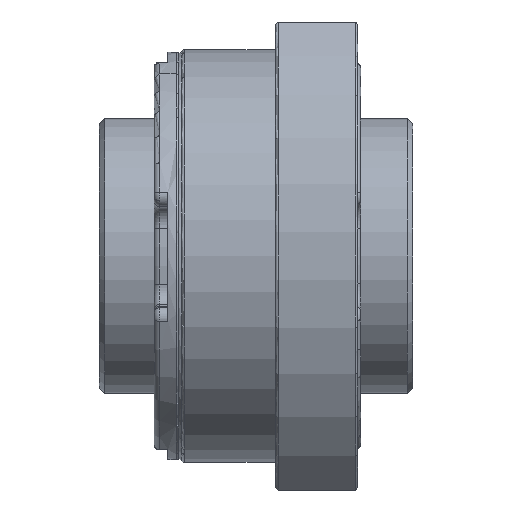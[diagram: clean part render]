
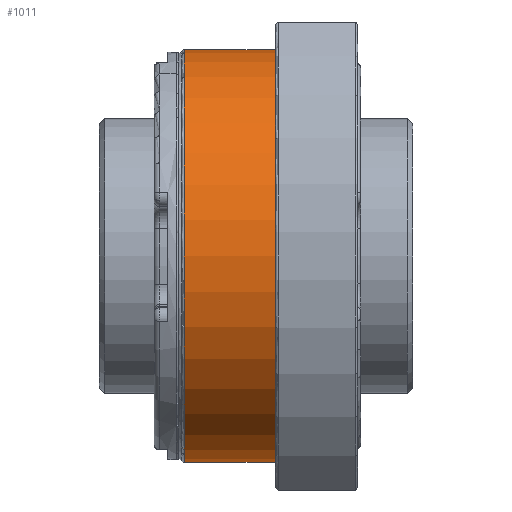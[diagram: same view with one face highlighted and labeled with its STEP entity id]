
A CAD part, front view. The second image highlights one B-rep face of the part: STEP entity #1011.
In plain terms, the highlighted cylindrical face has radius 37.5 mm (diameter 75 mm), a partial arc.
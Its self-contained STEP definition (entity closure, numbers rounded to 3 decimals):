
#444 = CYLINDRICAL_SURFACE ( 'NONE', #12963, 37.5 ) ;
#1011 = ADVANCED_FACE ( 'NONE', ( #4127 ), #444, .T. ) ;
#1213 = CARTESIAN_POINT ( 'NONE',  ( -34.564, -1.213, -11.673 ) ) ;
#1390 = CIRCLE ( 'NONE', #15136, 37.5 ) ;
#2776 = DIRECTION ( 'NONE',  ( 1., 0., 0. ) ) ;
#3011 = CARTESIAN_POINT ( 'NONE',  ( -55.064, -1.213, 25.827 ) ) ;
#3072 = CARTESIAN_POINT ( 'NONE',  ( -18.064, -1.213, 63.327 ) ) ;
#3842 = CIRCLE ( 'NONE', #7764, 37.5 ) ;
#3979 = CARTESIAN_POINT ( 'NONE',  ( -34.564, -1.213, 25.827 ) ) ;
#4127 = FACE_OUTER_BOUND ( 'NONE', #15657, .T. ) ;
#4296 = ORIENTED_EDGE ( 'NONE', *, *, #13429, .T. ) ;
#4419 = ORIENTED_EDGE ( 'NONE', *, *, #9727, .T. ) ;
#4600 = LINE ( 'NONE', #5615, #8478 ) ;
#4753 = VECTOR ( 'NONE', #9003, 1000. ) ;
#5559 = DIRECTION ( 'NONE',  ( 1., 0., 0. ) ) ;
#5615 = CARTESIAN_POINT ( 'NONE',  ( -55.064, -1.213, 63.327 ) ) ;
#5634 = DIRECTION ( 'NONE',  ( 0., 0., -1. ) ) ;
#5736 = DIRECTION ( 'NONE',  ( 1., 0., 0. ) ) ;
#5889 = ORIENTED_EDGE ( 'NONE', *, *, #16822, .T. ) ;
#7252 = DIRECTION ( 'NONE',  ( 0., 0., -1. ) ) ;
#7764 = AXIS2_PLACEMENT_3D ( 'NONE', #12211, #9838, #7252 ) ;
#8478 = VECTOR ( 'NONE', #5559, 1000. ) ;
#9003 = DIRECTION ( 'NONE',  ( 1., 0., 0. ) ) ;
#9727 = EDGE_CURVE ( 'NONE', #13271, #16011, #10832, .T. ) ;
#9838 = DIRECTION ( 'NONE',  ( -1., 0., 0. ) ) ;
#10832 = LINE ( 'NONE', #13970, #4753 ) ;
#12127 = CARTESIAN_POINT ( 'NONE',  ( -18.064, -1.213, -11.673 ) ) ;
#12211 = CARTESIAN_POINT ( 'NONE',  ( -18.064, -1.213, 25.827 ) ) ;
#12652 = VERTEX_POINT ( 'NONE', #3072 ) ;
#12713 = ORIENTED_EDGE ( 'NONE', *, *, #14408, .F. ) ;
#12963 = AXIS2_PLACEMENT_3D ( 'NONE', #3011, #5736, #5634 ) ;
#13028 = DIRECTION ( 'NONE',  ( 0., 0., -1. ) ) ;
#13271 = VERTEX_POINT ( 'NONE', #1213 ) ;
#13429 = EDGE_CURVE ( 'NONE', #16011, #12652, #3842, .T. ) ;
#13970 = CARTESIAN_POINT ( 'NONE',  ( -55.064, -1.213, -11.673 ) ) ;
#14408 = EDGE_CURVE ( 'NONE', #16127, #12652, #4600, .T. ) ;
#15136 = AXIS2_PLACEMENT_3D ( 'NONE', #3979, #2776, #13028 ) ;
#15450 = CARTESIAN_POINT ( 'NONE',  ( -34.564, -1.213, 63.327 ) ) ;
#15657 = EDGE_LOOP ( 'NONE', ( #12713, #5889, #4419, #4296 ) ) ;
#16011 = VERTEX_POINT ( 'NONE', #12127 ) ;
#16127 = VERTEX_POINT ( 'NONE', #15450 ) ;
#16822 = EDGE_CURVE ( 'NONE', #16127, #13271, #1390, .T. ) ;
